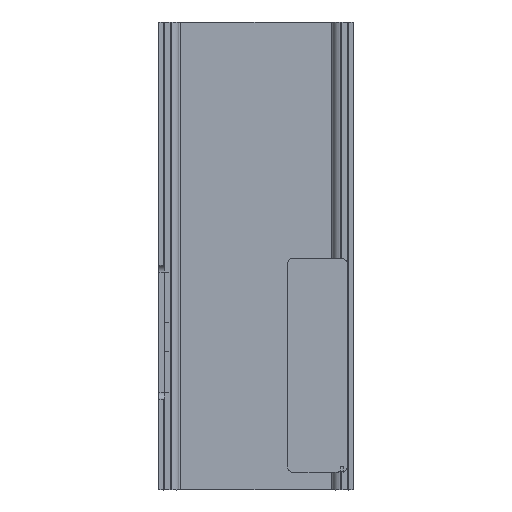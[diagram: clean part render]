
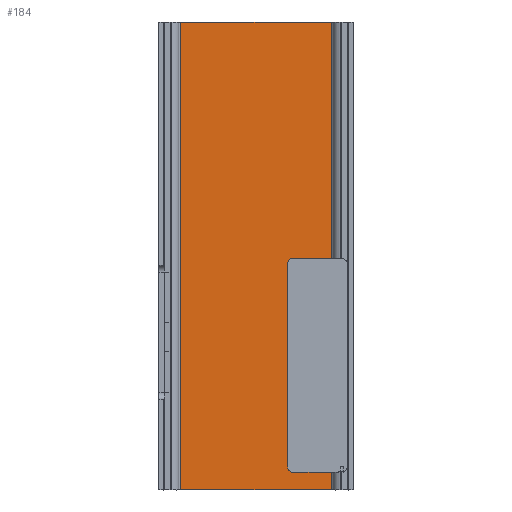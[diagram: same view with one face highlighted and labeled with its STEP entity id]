
A CAD part, front view. The second image highlights one B-rep face of the part: STEP entity #184.
In plain terms, the highlighted planar face has unit normal (0, -1, 0).
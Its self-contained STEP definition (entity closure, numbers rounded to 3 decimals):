
#114=PLANE('',#2950);
#184=ADVANCED_FACE('',(#341),#114,.T.);
#341=FACE_OUTER_BOUND('',#504,.F.);
#504=EDGE_LOOP('',(#810,#811,#812,#813,#814,#815,#816,#817,#818,#819));
#810=ORIENTED_EDGE('',*,*,#1861,.T.);
#811=ORIENTED_EDGE('',*,*,#1721,.F.);
#812=ORIENTED_EDGE('',*,*,#1754,.T.);
#813=ORIENTED_EDGE('',*,*,#1753,.T.);
#814=ORIENTED_EDGE('',*,*,#1752,.T.);
#815=ORIENTED_EDGE('',*,*,#1751,.T.);
#816=ORIENTED_EDGE('',*,*,#1750,.T.);
#817=ORIENTED_EDGE('',*,*,#1893,.F.);
#818=ORIENTED_EDGE('',*,*,#1878,.F.);
#819=ORIENTED_EDGE('',*,*,#1894,.T.);
#1577=CIRCLE('',#2836,1.5);
#1578=CIRCLE('',#2837,1.5);
#1721=EDGE_CURVE('',#2763,#2762,#2114,.T.);
#1750=EDGE_CURVE('',#2730,#2729,#2130,.T.);
#1751=EDGE_CURVE('',#2728,#2730,#1577,.T.);
#1752=EDGE_CURVE('',#2727,#2728,#2131,.T.);
#1753=EDGE_CURVE('',#2726,#2727,#1578,.T.);
#1754=EDGE_CURVE('',#2763,#2726,#2132,.T.);
#1861=EDGE_CURVE('',#2629,#2762,#2201,.T.);
#1878=EDGE_CURVE('',#2622,#2623,#2214,.T.);
#1893=EDGE_CURVE('',#2623,#2729,#2227,.T.);
#1894=EDGE_CURVE('',#2622,#2629,#2228,.T.);
#2114=LINE('',#4202,#2345);
#2130=LINE('',#4252,#2361);
#2131=LINE('',#4254,#2362);
#2132=LINE('',#4256,#2363);
#2201=LINE('',#4375,#2432);
#2214=LINE('',#4392,#2445);
#2227=LINE('',#4407,#2458);
#2228=LINE('',#4408,#2459);
#2345=VECTOR('',#3146,52.84);
#2361=VECTOR('',#3182,8.301);
#2362=VECTOR('',#3185,45.);
#2363=VECTOR('',#3188,8.301);
#2432=VECTOR('',#3329,33.601);
#2445=VECTOR('',#3350,33.601);
#2458=VECTOR('',#3367,3.93);
#2459=VECTOR('',#3368,104.77);
#2622=VERTEX_POINT('',#4060);
#2623=VERTEX_POINT('',#4061);
#2629=VERTEX_POINT('',#4067);
#2726=VERTEX_POINT('',#4164);
#2727=VERTEX_POINT('',#4165);
#2728=VERTEX_POINT('',#4166);
#2729=VERTEX_POINT('',#4167);
#2730=VERTEX_POINT('',#4168);
#2762=VERTEX_POINT('',#4200);
#2763=VERTEX_POINT('',#4201);
#2836=AXIS2_PLACEMENT_3D('',#4253,#3183,#3184);
#2837=AXIS2_PLACEMENT_3D('',#4255,#3186,#3187);
#2950=AXIS2_PLACEMENT_3D('',#4550,#3580,#3581);
#3146=DIRECTION('',(0.,0.,1.));
#3182=DIRECTION('',(1.,0.,0.));
#3183=DIRECTION('',(0.,-1.,0.));
#3184=DIRECTION('',(-1.,0.,0.));
#3185=DIRECTION('',(0.,0.,-1.));
#3186=DIRECTION('',(0.,-1.,0.));
#3187=DIRECTION('',(0.,0.,1.));
#3188=DIRECTION('',(-1.,0.,0.));
#3329=DIRECTION('',(1.,0.,0.));
#3350=DIRECTION('',(1.,0.,0.));
#3367=DIRECTION('',(0.,0.,1.));
#3368=DIRECTION('',(0.,0.,1.));
#3580=DIRECTION('',(0.,-1.,0.));
#3581=DIRECTION('',(1.,0.,0.));
#4060=CARTESIAN_POINT('',(-16.801,-2.5,0.));
#4061=CARTESIAN_POINT('',(16.801,-2.5,0.));
#4067=CARTESIAN_POINT('',(-16.801,-2.5,104.77));
#4164=CARTESIAN_POINT('',(8.5,-2.5,51.93));
#4165=CARTESIAN_POINT('',(7.,-2.5,50.43));
#4166=CARTESIAN_POINT('',(7.,-2.5,5.43));
#4167=CARTESIAN_POINT('',(16.801,-2.5,3.93));
#4168=CARTESIAN_POINT('',(8.5,-2.5,3.93));
#4200=CARTESIAN_POINT('',(16.801,-2.5,104.77));
#4201=CARTESIAN_POINT('',(16.801,-2.5,51.93));
#4202=CARTESIAN_POINT('',(16.801,-2.5,51.93));
#4252=CARTESIAN_POINT('',(8.5,-2.5,3.93));
#4253=CARTESIAN_POINT('',(8.5,-2.5,5.43));
#4254=CARTESIAN_POINT('',(7.,-2.5,50.43));
#4255=CARTESIAN_POINT('',(8.5,-2.5,50.43));
#4256=CARTESIAN_POINT('',(16.801,-2.5,51.93));
#4375=CARTESIAN_POINT('',(-16.801,-2.5,104.77));
#4392=CARTESIAN_POINT('',(-16.801,-2.5,0.));
#4407=CARTESIAN_POINT('',(16.801,-2.5,0.));
#4408=CARTESIAN_POINT('',(-16.801,-2.5,0.));
#4550=CARTESIAN_POINT('',(-17.848,-2.5,-1.048));
